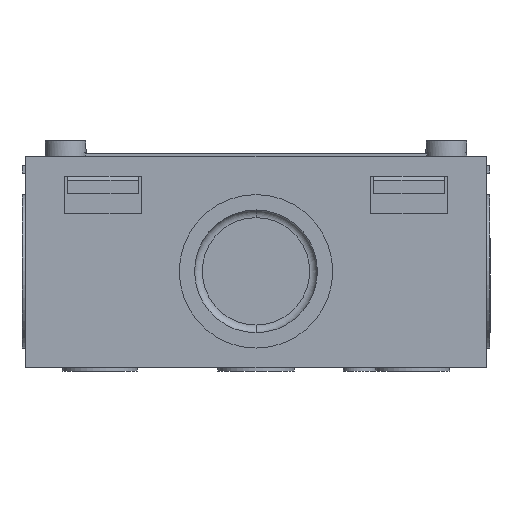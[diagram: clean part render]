
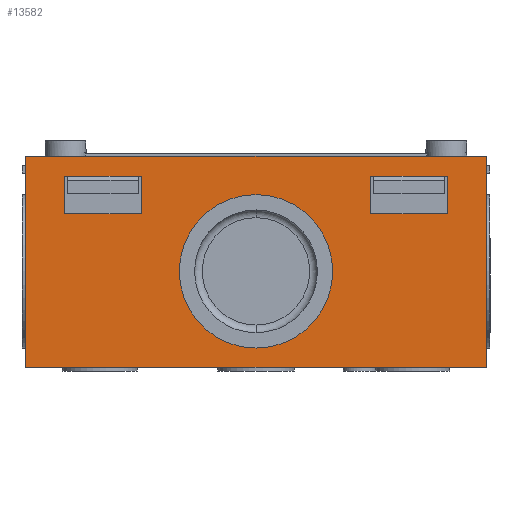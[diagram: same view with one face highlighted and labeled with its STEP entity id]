
A CAD part, front view. The second image highlights one B-rep face of the part: STEP entity #13582.
In plain terms, the highlighted planar face has unit normal (0, -1, 0).
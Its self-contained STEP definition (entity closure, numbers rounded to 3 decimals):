
#11 = VECTOR ( 'NONE', #7387, 1000. ) ;
#21 = VECTOR ( 'NONE', #7423, 1000. ) ;
#22 = VECTOR ( 'NONE', #7378, 1000. ) ;
#26 = VECTOR ( 'NONE', #7390, 1000. ) ;
#33 = VECTOR ( 'NONE', #7414, 1000. ) ;
#52 = VECTOR ( 'NONE', #7381, 1000. ) ;
#58 = VECTOR ( 'NONE', #7393, 1000. ) ;
#63 = VECTOR ( 'NONE', #7522, 1000. ) ;
#66 = VECTOR ( 'NONE', #7375, 1000. ) ;
#67 = VECTOR ( 'NONE', #7357, 1000. ) ;
#68 = AXIS2_PLACEMENT_3D ( 'NONE', #7339, #7358, #7359 ) ;
#89 = VECTOR ( 'NONE', #7354, 1000. ) ;
#91 = VECTOR ( 'NONE', #7384, 1000. ) ;
#4497 = CIRCLE ( 'NONE', #68, 10. ) ;
#4525 = CIRCLE ( 'NONE', #10611, 10. ) ;
#6381 = VERTEX_POINT ( 'NONE', #8767 ) ;
#6391 = VERTEX_POINT ( 'NONE', #8777 ) ;
#6392 = VERTEX_POINT ( 'NONE', #8778 ) ;
#6393 = VERTEX_POINT ( 'NONE', #8779 ) ;
#6394 = VERTEX_POINT ( 'NONE', #8780 ) ;
#6412 = VERTEX_POINT ( 'NONE', #8798 ) ;
#6413 = VERTEX_POINT ( 'NONE', #8799 ) ;
#6429 = VERTEX_POINT ( 'NONE', #8815 ) ;
#6432 = VERTEX_POINT ( 'NONE', #8818 ) ;
#6433 = VERTEX_POINT ( 'NONE', #8819 ) ;
#6514 = VERTEX_POINT ( 'NONE', #8900 ) ;
#6658 = VERTEX_POINT ( 'NONE', #9044 ) ;
#6749 = CARTESIAN_POINT ( 'NONE',  ( 0., -85.5, -11.25 ) ) ;
#6753 = CARTESIAN_POINT ( 'NONE',  ( -14.95, -85.5, 6.25 ) ) ;
#7339 = CARTESIAN_POINT ( 'NONE',  ( 0., -85.5, -1.25 ) ) ;
#7352 = LINE ( 'NONE', #7353, #89 ) ;
#7353 = CARTESIAN_POINT ( 'NONE',  ( -24.95, -85.5, 11.15 ) ) ;
#7354 = DIRECTION ( 'NONE',  ( 1., 0., 0. ) ) ;
#7355 = LINE ( 'NONE', #7356, #67 ) ;
#7356 = CARTESIAN_POINT ( 'NONE',  ( -14.95, -85.5, 11.15 ) ) ;
#7357 = DIRECTION ( 'NONE',  ( 0., 0., -1. ) ) ;
#7358 = DIRECTION ( 'NONE',  ( 0., -1., 0. ) ) ;
#7359 = DIRECTION ( 'NONE',  ( 0., 0., 1. ) ) ;
#7373 = LINE ( 'NONE', #7374, #66 ) ;
#7374 = CARTESIAN_POINT ( 'NONE',  ( 30., -85.5, -13.75 ) ) ;
#7375 = DIRECTION ( 'NONE',  ( 0., 0., 1. ) ) ;
#7376 = LINE ( 'NONE', #7377, #22 ) ;
#7377 = CARTESIAN_POINT ( 'NONE',  ( 24.95, -85.5, 11.15 ) ) ;
#7378 = DIRECTION ( 'NONE',  ( 0., 0., -1. ) ) ;
#7379 = LINE ( 'NONE', #7380, #52 ) ;
#7380 = CARTESIAN_POINT ( 'NONE',  ( 24.95, -85.5, 11.15 ) ) ;
#7381 = DIRECTION ( 'NONE',  ( -1., 0., 0. ) ) ;
#7382 = LINE ( 'NONE', #7383, #91 ) ;
#7383 = CARTESIAN_POINT ( 'NONE',  ( 24.95, -85.5, 6.25 ) ) ;
#7384 = DIRECTION ( 'NONE',  ( -1., 0., 0. ) ) ;
#7385 = LINE ( 'NONE', #7386, #11 ) ;
#7386 = CARTESIAN_POINT ( 'NONE',  ( -24.95, -85.5, 11.15 ) ) ;
#7387 = DIRECTION ( 'NONE',  ( 0., 0., -1. ) ) ;
#7388 = LINE ( 'NONE', #7389, #26 ) ;
#7389 = CARTESIAN_POINT ( 'NONE',  ( 14.95, -85.5, 11.15 ) ) ;
#7390 = DIRECTION ( 'NONE',  ( 0., 0., -1. ) ) ;
#7391 = LINE ( 'NONE', #7392, #58 ) ;
#7392 = CARTESIAN_POINT ( 'NONE',  ( -24.95, -85.5, 6.25 ) ) ;
#7393 = DIRECTION ( 'NONE',  ( 1., 0., 0. ) ) ;
#7412 = LINE ( 'NONE', #7413, #33 ) ;
#7413 = CARTESIAN_POINT ( 'NONE',  ( -30., -85.5, 13.75 ) ) ;
#7414 = DIRECTION ( 'NONE',  ( -1., 0., 0. ) ) ;
#7421 = LINE ( 'NONE', #7422, #21 ) ;
#7422 = CARTESIAN_POINT ( 'NONE',  ( -30., -85.5, -13.75 ) ) ;
#7423 = DIRECTION ( 'NONE',  ( 0., 0., -1. ) ) ;
#7520 = LINE ( 'NONE', #7521, #63 ) ;
#7521 = CARTESIAN_POINT ( 'NONE',  ( -30., -85.5, -13.75 ) ) ;
#7522 = DIRECTION ( 'NONE',  ( 1., 0., 0. ) ) ;
#7712 = CARTESIAN_POINT ( 'NONE',  ( 0., -85.5, -1.25 ) ) ;
#7719 = DIRECTION ( 'NONE',  ( 0., -1., 0. ) ) ;
#7720 = DIRECTION ( 'NONE',  ( 0., 0., 1. ) ) ;
#7920 = VERTEX_POINT ( 'NONE', #6749 ) ;
#7924 = VERTEX_POINT ( 'NONE', #6753 ) ;
#8767 = CARTESIAN_POINT ( 'NONE',  ( -30., -85.5, 13.75 ) ) ;
#8777 = CARTESIAN_POINT ( 'NONE',  ( 30., -85.5, 13.75 ) ) ;
#8778 = CARTESIAN_POINT ( 'NONE',  ( 24.95, -85.5, 11.15 ) ) ;
#8779 = CARTESIAN_POINT ( 'NONE',  ( 14.95, -85.5, 11.15 ) ) ;
#8780 = CARTESIAN_POINT ( 'NONE',  ( 24.95, -85.5, 6.25 ) ) ;
#8798 = CARTESIAN_POINT ( 'NONE',  ( -30., -85.5, -13.75 ) ) ;
#8799 = CARTESIAN_POINT ( 'NONE',  ( 30., -85.5, -13.75 ) ) ;
#8815 = CARTESIAN_POINT ( 'NONE',  ( 14.95, -85.5, 6.25 ) ) ;
#8818 = CARTESIAN_POINT ( 'NONE',  ( -24.95, -85.5, 11.15 ) ) ;
#8819 = CARTESIAN_POINT ( 'NONE',  ( -24.95, -85.5, 6.25 ) ) ;
#8900 = CARTESIAN_POINT ( 'NONE',  ( -14.95, -85.5, 11.15 ) ) ;
#9044 = CARTESIAN_POINT ( 'NONE',  ( 0., -85.5, 8.75 ) ) ;
#9122 = AXIS2_PLACEMENT_3D ( 'NONE', #12565, #12566, #12567 ) ;
#9128 = FACE_BOUND ( 'NONE', #11161, .T. ) ;
#9153 = FACE_BOUND ( 'NONE', #11159, .T. ) ;
#9220 = FACE_BOUND ( 'NONE', #11160, .T. ) ;
#9291 = FACE_OUTER_BOUND ( 'NONE', #11158, .T. ) ;
#10611 = AXIS2_PLACEMENT_3D ( 'NONE', #7712, #7719, #7720 ) ;
#10967 = ORIENTED_EDGE ( 'NONE', *, *, #13052, .T. ) ;
#10974 = ORIENTED_EDGE ( 'NONE', *, *, #13045, .T. ) ;
#10975 = ORIENTED_EDGE ( 'NONE', *, *, #13058, .F. ) ;
#10976 = ORIENTED_EDGE ( 'NONE', *, *, #13057, .F. ) ;
#10977 = ORIENTED_EDGE ( 'NONE', *, *, #13053, .T. ) ;
#10978 = ORIENTED_EDGE ( 'NONE', *, *, #13055, .T. ) ;
#10979 = ORIENTED_EDGE ( 'NONE', *, *, #13054, .F. ) ;
#10980 = ORIENTED_EDGE ( 'NONE', *, *, #13101, .T. ) ;
#10981 = ORIENTED_EDGE ( 'NONE', *, *, #13065, .T. ) ;
#10982 = ORIENTED_EDGE ( 'NONE', *, *, #13068, .T. ) ;
#10987 = ORIENTED_EDGE ( 'NONE', *, *, #13166, .F. ) ;
#10988 = ORIENTED_EDGE ( 'NONE', *, *, #13047, .F. ) ;
#10990 = ORIENTED_EDGE ( 'NONE', *, *, #13046, .T. ) ;
#10991 = ORIENTED_EDGE ( 'NONE', *, *, #13056, .F. ) ;
#11158 = EDGE_LOOP ( 'NONE', ( #10967, #10981, #10982, #10980 ) ) ;
#11159 = EDGE_LOOP ( 'NONE', ( #10979, #10977, #10978, #10976 ) ) ;
#11160 = EDGE_LOOP ( 'NONE', ( #10975, #10991, #10974, #10990 ) ) ;
#11161 = EDGE_LOOP ( 'NONE', ( #10988, #10987 ) ) ;
#12564 = PLANE ( 'NONE',  #9122 ) ;
#12565 = CARTESIAN_POINT ( 'NONE',  ( 0., -85.5, 0. ) ) ;
#12566 = DIRECTION ( 'NONE',  ( 0., 1., 0. ) ) ;
#12567 = DIRECTION ( 'NONE',  ( 0., 0., 1. ) ) ;
#13045 = EDGE_CURVE ( 'NONE', #6432, #6514, #7352, .T. ) ;
#13046 = EDGE_CURVE ( 'NONE', #6514, #7924, #7355, .T. ) ;
#13047 = EDGE_CURVE ( 'NONE', #6658, #7920, #4497, .T. ) ;
#13052 = EDGE_CURVE ( 'NONE', #6413, #6391, #7373, .T. ) ;
#13053 = EDGE_CURVE ( 'NONE', #6392, #6394, #7376, .T. ) ;
#13054 = EDGE_CURVE ( 'NONE', #6392, #6393, #7379, .T. ) ;
#13055 = EDGE_CURVE ( 'NONE', #6394, #6429, #7382, .T. ) ;
#13056 = EDGE_CURVE ( 'NONE', #6432, #6433, #7385, .T. ) ;
#13057 = EDGE_CURVE ( 'NONE', #6393, #6429, #7388, .T. ) ;
#13058 = EDGE_CURVE ( 'NONE', #6433, #7924, #7391, .T. ) ;
#13065 = EDGE_CURVE ( 'NONE', #6391, #6381, #7412, .T. ) ;
#13068 = EDGE_CURVE ( 'NONE', #6381, #6412, #7421, .T. ) ;
#13101 = EDGE_CURVE ( 'NONE', #6412, #6413, #7520, .T. ) ;
#13166 = EDGE_CURVE ( 'NONE', #7920, #6658, #4525, .T. ) ;
#13582 = ADVANCED_FACE ( 'NONE', ( #9291, #9153, #9220, #9128 ), #12564, .F. ) ;
